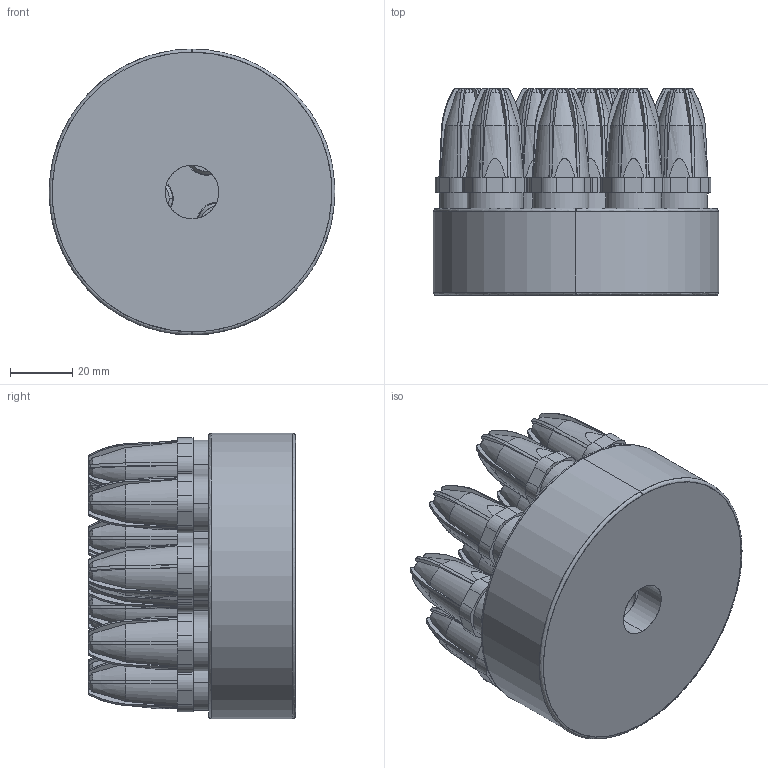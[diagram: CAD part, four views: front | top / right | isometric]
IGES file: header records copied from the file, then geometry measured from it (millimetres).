
Start section: SolidWorks IGES file using analytic representation for surfaces
Global section: file name: G:\Silvent\Ritningar\Övrigt\IGES\Silvent 412L.IGS; native system: SolidWorks 2006 by SolidWorks Corporation; preprocessor: SolidWorks 2006 by SolidWorks Corporation; author: SilvRaTi; date: 061220.091437; units: millimetre
Bounding box: 92 x 66.65 x 92 mm (x, y, z)
Surface area: 80573.4 mm2 (no closed solid volume)
Topology: 0 solids, 0 shells, 974 faces, 12456 edges, 12456 vertices
Faces by surface type: revolution 522, bspline 452
